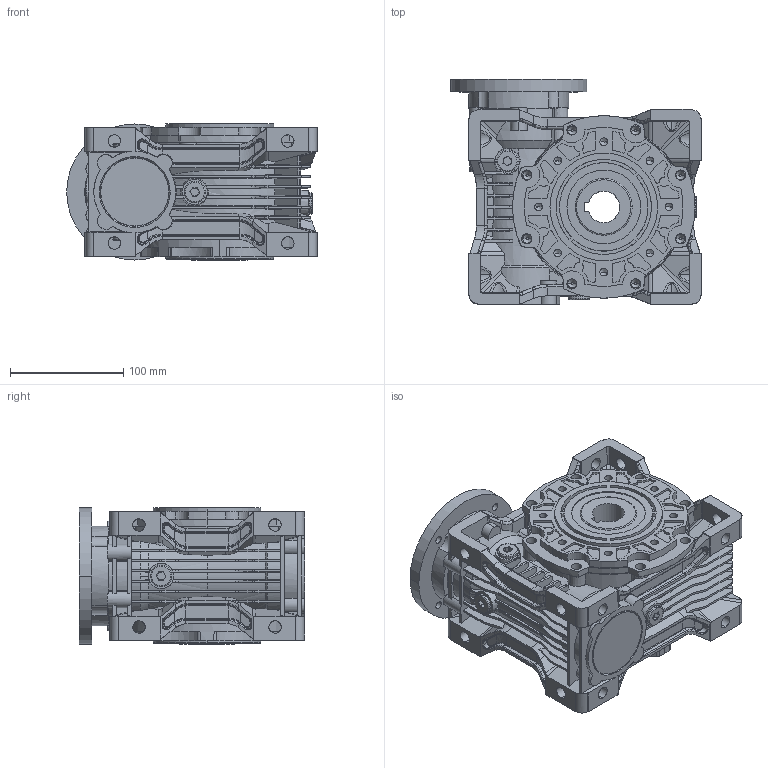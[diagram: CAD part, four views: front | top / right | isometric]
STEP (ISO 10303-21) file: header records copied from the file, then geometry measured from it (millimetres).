
FILE_DESCRIPTION (( 'STEP AP203' ), '1' );
FILE_NAME ('NMRV75-80B14.STEP', '2018-11-30T07:30:42', ( '微软中国' ), ( '微软中国' ), 'SwSTEP 2.0', 'SolidWorks 2016', '' );
FILE_SCHEMA (( 'CONFIG_CONTROL_DESIGN' ));
Products named in the file (1): NMRV75-80B14
Bounding box: 221 x 198.5 x 120 mm (x, y, z)
Volume: 1679546 mm3; surface area: 469276.6 mm2
Topology: 7 solids, 8 shells, 2954 faces, 8167 edges, 5262 vertices
Faces by surface type: cylinder 1199, plane 1020, bspline 386, cone 323, torus 26
Entity records: 136569 total; most frequent: CARTESIAN_POINT 70276, ORIENTED_EDGE 16228, DIRECTION 10441, EDGE_CURVE 8114, VERTEX_POINT 5262, AXIS2_PLACEMENT_3D 3768, B_SPLINE_CURVE_WITH_KNOTS 3650, EDGE_LOOP 3102
